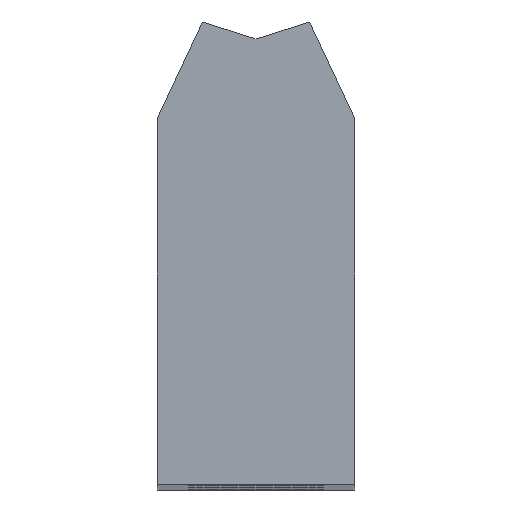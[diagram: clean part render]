
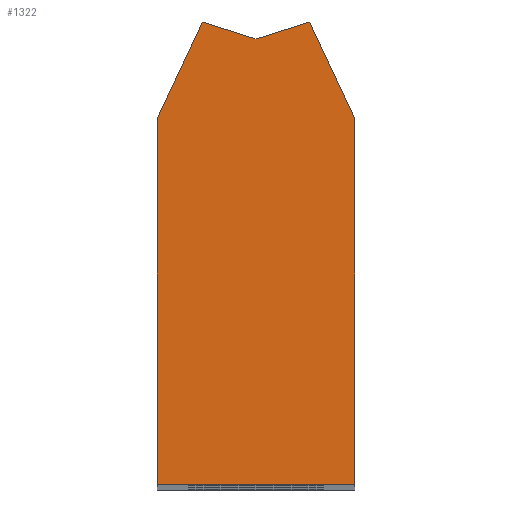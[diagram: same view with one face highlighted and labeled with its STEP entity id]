
A CAD part, top view. The second image highlights one B-rep face of the part: STEP entity #1322.
In plain terms, the highlighted planar face has unit normal (0, 0, 1).
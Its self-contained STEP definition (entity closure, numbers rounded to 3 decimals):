
#3 = ORIENTED_EDGE ( 'NONE', *, *, #1003, .T. ) ;
#15 = LINE ( 'NONE', #865, #1484 ) ;
#82 = CARTESIAN_POINT ( 'NONE',  ( 17.5, 64.626, 299.75 ) ) ;
#97 = CARTESIAN_POINT ( 'NONE',  ( -9.5, 81.782, 299.75 ) ) ;
#141 = CARTESIAN_POINT ( 'NONE',  ( -17.5, 0., 299.75 ) ) ;
#173 = VERTEX_POINT ( 'NONE', #354 ) ;
#235 = DIRECTION ( 'NONE',  ( 0., 0., 1. ) ) ;
#239 = ORIENTED_EDGE ( 'NONE', *, *, #1391, .T. ) ;
#256 = DIRECTION ( 'NONE',  ( -0.423, 0.906, 0. ) ) ;
#283 = LINE ( 'NONE', #1250, #1303 ) ;
#314 = ORIENTED_EDGE ( 'NONE', *, *, #1184, .T. ) ;
#325 = VERTEX_POINT ( 'NONE', #1412 ) ;
#350 = VERTEX_POINT ( 'NONE', #810 ) ;
#354 = CARTESIAN_POINT ( 'NONE',  ( 17.5, 64.626, 299.75 ) ) ;
#389 = VERTEX_POINT ( 'NONE', #444 ) ;
#444 = CARTESIAN_POINT ( 'NONE',  ( -9.5, 81.782, 299.75 ) ) ;
#513 = AXIS2_PLACEMENT_3D ( 'NONE', #1493, #235, #1101 ) ;
#518 = FACE_OUTER_BOUND ( 'NONE', #1174, .T. ) ;
#539 = VERTEX_POINT ( 'NONE', #1490 ) ;
#546 = LINE ( 'NONE', #141, #1809 ) ;
#559 = VERTEX_POINT ( 'NONE', #635 ) ;
#597 = VECTOR ( 'NONE', #1297, 1000. ) ;
#619 = CARTESIAN_POINT ( 'NONE',  ( 17.5, 0., 299.75 ) ) ;
#635 = CARTESIAN_POINT ( 'NONE',  ( 9.5, 81.782, 299.75 ) ) ;
#667 = EDGE_CURVE ( 'NONE', #325, #173, #1461, .T. ) ;
#670 = LINE ( 'NONE', #97, #864 ) ;
#708 = CARTESIAN_POINT ( 'NONE',  ( -17.5, 64.626, 299.75 ) ) ;
#725 = LINE ( 'NONE', #1435, #597 ) ;
#810 = CARTESIAN_POINT ( 'NONE',  ( 0., 78.787, 299.75 ) ) ;
#864 = VECTOR ( 'NONE', #1492, 1000. ) ;
#865 = CARTESIAN_POINT ( 'NONE',  ( 9.5, 81.782, 299.75 ) ) ;
#885 = ORIENTED_EDGE ( 'NONE', *, *, #667, .T. ) ;
#938 = PLANE ( 'NONE',  #513 ) ;
#1003 = EDGE_CURVE ( 'NONE', #559, #350, #15, .T. ) ;
#1014 = VECTOR ( 'NONE', #256, 1000. ) ;
#1051 = VERTEX_POINT ( 'NONE', #708 ) ;
#1066 = EDGE_CURVE ( 'NONE', #350, #389, #283, .T. ) ;
#1101 = DIRECTION ( 'NONE',  ( 1., 0., 0. ) ) ;
#1118 = DIRECTION ( 'NONE',  ( -0.954, 0.301, 0. ) ) ;
#1138 = DIRECTION ( 'NONE',  ( -0.954, -0.301, 0. ) ) ;
#1174 = EDGE_LOOP ( 'NONE', ( #1287, #1178, #314, #239, #885, #1385, #3 ) ) ;
#1178 = ORIENTED_EDGE ( 'NONE', *, *, #1647, .T. ) ;
#1184 = EDGE_CURVE ( 'NONE', #1051, #539, #725, .T. ) ;
#1236 = EDGE_CURVE ( 'NONE', #173, #559, #1513, .T. ) ;
#1250 = CARTESIAN_POINT ( 'NONE',  ( 0., 78.787, 299.75 ) ) ;
#1287 = ORIENTED_EDGE ( 'NONE', *, *, #1066, .T. ) ;
#1297 = DIRECTION ( 'NONE',  ( 0., -1., 0. ) ) ;
#1302 = VECTOR ( 'NONE', #1753, 1000. ) ;
#1303 = VECTOR ( 'NONE', #1118, 1000. ) ;
#1322 = ADVANCED_FACE ( 'NONE', ( #518 ), #938, .T. ) ;
#1385 = ORIENTED_EDGE ( 'NONE', *, *, #1236, .T. ) ;
#1391 = EDGE_CURVE ( 'NONE', #539, #325, #546, .T. ) ;
#1412 = CARTESIAN_POINT ( 'NONE',  ( 17.5, 0., 299.75 ) ) ;
#1435 = CARTESIAN_POINT ( 'NONE',  ( -17.5, 64.626, 299.75 ) ) ;
#1461 = LINE ( 'NONE', #619, #1302 ) ;
#1484 = VECTOR ( 'NONE', #1138, 1000. ) ;
#1490 = CARTESIAN_POINT ( 'NONE',  ( -17.5, 0., 299.75 ) ) ;
#1492 = DIRECTION ( 'NONE',  ( -0.423, -0.906, 0. ) ) ;
#1493 = CARTESIAN_POINT ( 'NONE',  ( 0., 0., 299.75 ) ) ;
#1513 = LINE ( 'NONE', #82, #1014 ) ;
#1647 = EDGE_CURVE ( 'NONE', #389, #1051, #670, .T. ) ;
#1697 = DIRECTION ( 'NONE',  ( 1., 0., 0. ) ) ;
#1753 = DIRECTION ( 'NONE',  ( 0., 1., 0. ) ) ;
#1809 = VECTOR ( 'NONE', #1697, 1000. ) ;
